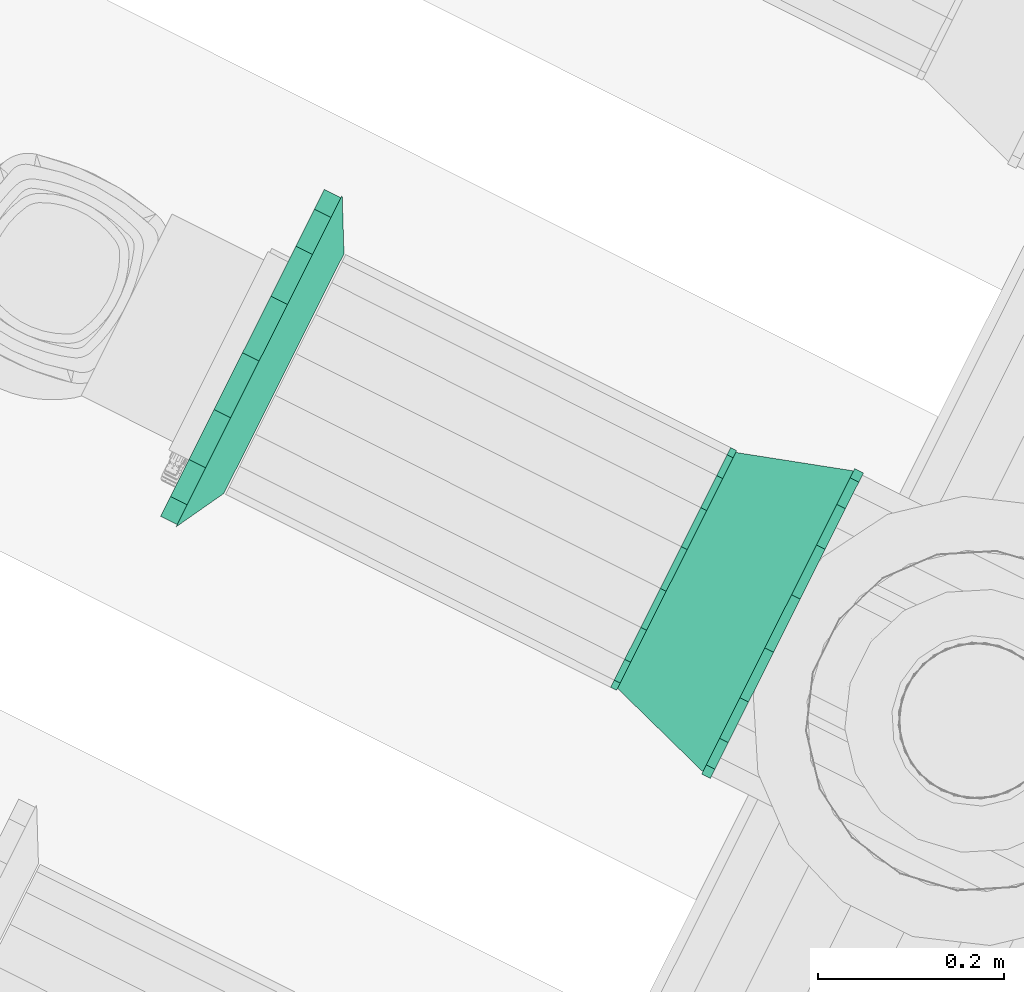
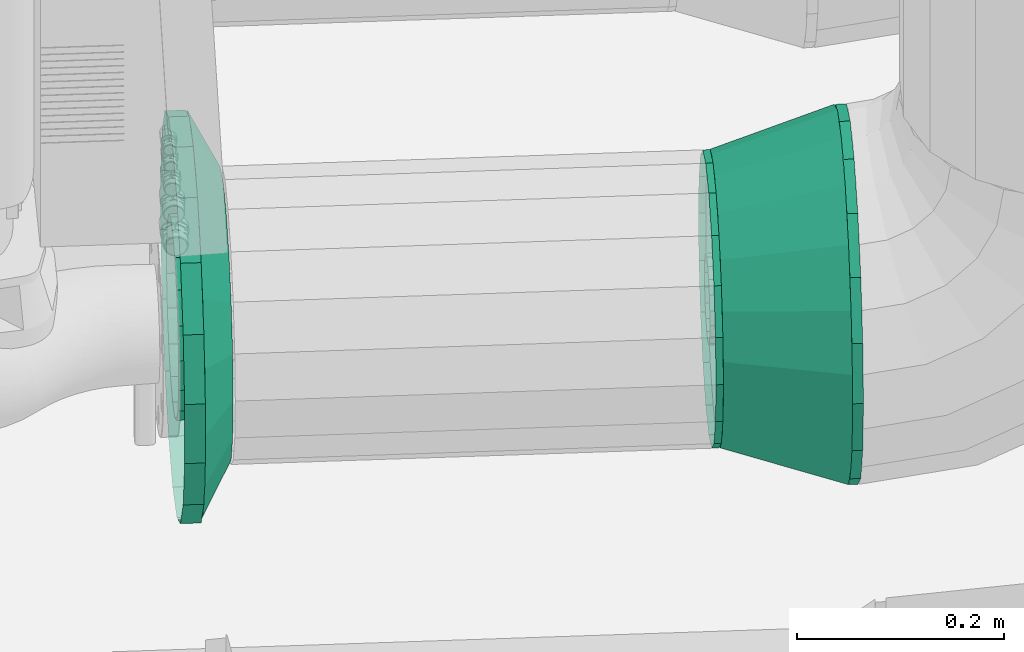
# One storey, part 110 of 152: 2 flow fittings.
"""IFC2X3 building model written with IfcOpenShell, lengths in metres."""

from ifc_helpers import new_model, si_unit, derived_unit, direction, frame, origin, place, context, subcontext, project, spatial, face_set, surface_model, source, transform, mapped, material, type_object, type_shapes, element, save


model = new_model("IFC2X3")

# Units and contexts
model_context = context("Model", 3, precision=5.2338327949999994e-05, world=origin(), true_north=direction((0.0, 1.0)))
body_context = subcontext(model_context, "Body", "Model", "MODEL_VIEW")
ifc_project = project(units=[si_unit("LENGTHUNIT", "METRE"), si_unit("AREAUNIT", "SQUARE_METRE"), si_unit("VOLUMEUNIT", "CUBIC_METRE"), si_unit("MASSUNIT", "GRAM", prefix="KILO"), si_unit("PLANEANGLEUNIT", "RADIAN"), derived_unit("THERMALTRANSMITTANCEUNIT", [(si_unit("MASSUNIT", "GRAM", prefix="KILO"), 1), (si_unit("THERMODYNAMICTEMPERATUREUNIT", "KELVIN"), -1), (si_unit("TIMEUNIT", "SECOND"), -3)])], contexts=[model_context])

# Site, building, storey
site_placement = place(None, frame((0.0, 0.0, 0.0), z_axis=(0.0, 0.0, 1.0), x_axis=(0.8939966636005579, -0.4480736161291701, 0.0)))
site = spatial("IfcSite", under=ifc_project, at=site_placement, Name="Default", CompositionType="ELEMENT")
building_placement = place(site_placement, origin())
building = spatial("IfcBuilding", under=site, at=building_placement, CompositionType="ELEMENT")
storey_placement = place(building_placement, frame((0.0, 0.0, 2.7499999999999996)))
storey = spatial("IfcBuildingStorey", under=building, at=storey_placement, Name="1. Obergeschoss", CompositionType="ELEMENT", Elevation=2.7499999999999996)

# Flow fittings
ifc_material_1 = material(Name="IfcSurfaceStyle #9317")
distribution_element_type_1 = type_object("IfcDistributionElementType", Name="Übergangsstück 221251:Übergangsstück 221251", material=ifc_material_1)
shared_shape_1 = source(origin(), body_context, "Body", "SurfaceModel", [
    surface_model("IfcFaceBasedSurfaceModel", [(11.496814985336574, 6.507598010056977, 3.325154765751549), (11.496814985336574, 6.5126728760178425, 3.3539357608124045), (11.486355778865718, 6.5126728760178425, 3.3539357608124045), (11.486355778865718, 6.507598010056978, 3.3251547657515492), (11.496814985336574, 6.5272853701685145, 3.3792453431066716), (11.486355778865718, 6.5272853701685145, 3.3792453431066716), (11.496814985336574, 6.549673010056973, 3.398030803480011), (11.486355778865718, 6.549673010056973, 3.398030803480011), (11.496814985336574, 6.577135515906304, 3.4080263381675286), (11.486355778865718, 6.577135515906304, 3.4080263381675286), (11.496814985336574, 6.606360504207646, 3.408026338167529), (11.486355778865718, 6.606360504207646, 3.408026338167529), (11.496814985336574, 6.633823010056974, 3.3980308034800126), (11.486355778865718, 6.633823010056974, 3.3980308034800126), (11.496814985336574, 6.656210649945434, 3.379245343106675), (11.486355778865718, 6.656210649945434, 3.379245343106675), (11.496814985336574, 6.670823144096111, 3.3539357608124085), (11.486355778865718, 6.670823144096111, 3.3539357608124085), (11.496814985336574, 6.675898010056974, 3.325154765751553), (11.486355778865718, 6.675898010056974, 3.325154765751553), (11.496814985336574, 6.670823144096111, 3.296373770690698), (11.486355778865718, 6.670823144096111, 3.296373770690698), (11.496814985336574, 6.6562106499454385, 3.2710641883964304), (11.486355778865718, 6.6562106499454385, 3.2710641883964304), (11.496814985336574, 6.633823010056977, 3.2522787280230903), (11.486355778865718, 6.633823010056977, 3.2522787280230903), (11.496814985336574, 6.606360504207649, 3.2422831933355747), (11.486355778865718, 6.606360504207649, 3.2422831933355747), (11.496814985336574, 6.577135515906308, 3.2422831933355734), (11.486355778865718, 6.577135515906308, 3.2422831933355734), (11.496814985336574, 6.549673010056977, 3.2522787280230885), (11.486355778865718, 6.549673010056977, 3.2522787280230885), (11.496814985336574, 6.527285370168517, 3.2710641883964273), (11.486355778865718, 6.527285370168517, 3.2710641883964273), (11.496814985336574, 6.512672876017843, 3.296373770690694), (11.486355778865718, 6.512672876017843, 3.296373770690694), (11.496814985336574, 6.407598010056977, 3.3251547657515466), (11.496814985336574, 6.418703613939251, 3.388137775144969), (11.486355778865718, 6.418703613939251, 3.388137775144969), (11.486355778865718, 6.407598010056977, 3.325154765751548), (11.496814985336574, 6.450680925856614, 3.4435241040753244), (11.486355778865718, 6.450680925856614, 3.4435241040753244), (11.496814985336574, 6.4996730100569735, 3.484633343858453), (11.486355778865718, 6.4996730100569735, 3.484633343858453), (11.496814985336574, 6.559770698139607, 3.5065071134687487), (11.486355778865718, 6.559770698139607, 3.5065071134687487), (11.496814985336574, 6.623725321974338, 3.5065071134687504), (11.486355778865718, 6.623725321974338, 3.5065071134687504), (11.496814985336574, 6.683823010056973, 3.4846333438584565), (11.486355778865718, 6.683823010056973, 3.4846333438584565), (11.496814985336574, 6.732815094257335, 3.4435241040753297), (11.486355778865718, 6.732815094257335, 3.4435241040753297), (11.496814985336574, 6.7647924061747, 3.388137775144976), (11.486355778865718, 6.7647924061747, 3.388137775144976), (11.496814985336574, 6.7758980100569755, 3.3251547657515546), (11.486355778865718, 6.7758980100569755, 3.3251547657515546), (11.496814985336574, 6.764792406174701, 3.262171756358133), (11.486355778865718, 6.764792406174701, 3.262171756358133), (11.496814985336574, 6.73281509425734, 3.2067854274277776), (11.486355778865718, 6.73281509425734, 3.2067854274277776), (11.496814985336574, 6.683823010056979, 3.165676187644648), (11.486355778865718, 6.683823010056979, 3.165676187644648), (11.496814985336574, 6.623725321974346, 3.1438024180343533), (11.486355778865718, 6.623725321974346, 3.1438024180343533), (11.496814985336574, 6.559770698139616, 3.143802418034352), (11.486355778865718, 6.559770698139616, 3.143802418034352), (11.496814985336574, 6.49967301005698, 3.165676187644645), (11.486355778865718, 6.49967301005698, 3.165676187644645), (11.496814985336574, 6.450680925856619, 3.2067854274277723), (11.486355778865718, 6.450680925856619, 3.2067854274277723), (11.496814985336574, 6.418703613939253, 3.262171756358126), (11.486355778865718, 6.418703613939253, 3.262171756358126), (11.486355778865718, 6.591748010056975, 3.4093047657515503), (11.486355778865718, 6.62052900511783, 3.404229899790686), (11.363964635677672, 6.606950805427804, 3.366924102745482), (11.363964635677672, 6.591748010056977, 3.3696047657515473), (11.486355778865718, 6.645838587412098, 3.389617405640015), (11.363964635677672, 6.620319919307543, 3.3592054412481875), (11.486355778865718, 6.664624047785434, 3.367229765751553), (11.363964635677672, 6.630242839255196, 3.3473797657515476), (11.486355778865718, 6.674619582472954, 3.3397672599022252), (11.363964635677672, 6.63552271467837, 3.332873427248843), (11.486355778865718, 6.674619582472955, 3.3105422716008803), (11.363964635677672, 6.635522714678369, 3.317436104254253), (11.486355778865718, 6.664624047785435, 3.283079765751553), (11.363964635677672, 6.630242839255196, 3.3029297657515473), (11.486355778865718, 6.6458385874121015, 3.260692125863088), (11.363964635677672, 6.620319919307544, 3.291104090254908), (11.486355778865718, 6.620529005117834, 3.246079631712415), (11.363964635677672, 6.606950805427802, 3.283385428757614), (11.486355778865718, 6.591748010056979, 3.2410047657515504), (11.363964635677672, 6.591748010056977, 3.280704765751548), (11.486355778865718, 6.562967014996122, 3.2460796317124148), (11.363964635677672, 6.57654521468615, 3.2833854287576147), (11.486355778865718, 6.537657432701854, 3.2606921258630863), (11.363964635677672, 6.56317610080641, 3.2911040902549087), (11.486355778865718, 6.518871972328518, 3.2830797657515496), (11.363964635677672, 6.553253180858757, 3.3029297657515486), (11.486355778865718, 6.508876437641, 3.310542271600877), (11.363964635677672, 6.547973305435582, 3.317436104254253), (11.486355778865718, 6.508876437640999, 3.3397672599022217), (11.363964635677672, 6.547973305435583, 3.3328734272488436), (11.486355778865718, 6.518871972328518, 3.3672297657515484), (11.363964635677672, 6.553253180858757, 3.347379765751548), (11.486355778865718, 6.537657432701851, 3.3896174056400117), (11.363964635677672, 6.563176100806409, 3.359205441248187), (11.486355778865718, 6.56296701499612, 3.404229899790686), (11.363964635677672, 6.57654521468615, 3.366924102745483), (11.363964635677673, 6.547298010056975, 3.325154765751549), (11.363964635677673, 6.549978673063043, 3.3403575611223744), (11.356814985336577, 6.549978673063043, 3.3403575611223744), (11.356814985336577, 6.547298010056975, 3.325154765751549), (11.363964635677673, 6.557697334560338, 3.353726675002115), (11.356814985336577, 6.557697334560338, 3.353726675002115), (11.363964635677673, 6.569523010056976, 3.3636495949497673), (11.356814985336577, 6.569523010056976, 3.3636495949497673), (11.363964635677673, 6.584029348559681, 3.3689294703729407), (11.356814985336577, 6.584029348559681, 3.3689294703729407), (11.363964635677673, 6.599466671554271, 3.3689294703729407), (11.356814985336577, 6.599466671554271, 3.3689294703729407), (11.363964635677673, 6.613973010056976, 3.363649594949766), (11.356814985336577, 6.613973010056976, 3.363649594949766), (11.363964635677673, 6.6257986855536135, 3.3537266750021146), (11.356814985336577, 6.6257986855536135, 3.3537266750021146), (11.363964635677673, 6.63351734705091, 3.340357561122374), (11.356814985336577, 6.63351734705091, 3.340357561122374), (11.363964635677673, 6.636198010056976, 3.325154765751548), (11.356814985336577, 6.636198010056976, 3.325154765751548), (11.363964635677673, 6.63351734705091, 3.309951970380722), (11.356814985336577, 6.63351734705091, 3.309951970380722), (11.363964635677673, 6.6257986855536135, 3.2965828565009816), (11.356814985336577, 6.6257986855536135, 3.2965828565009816), (11.363964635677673, 6.613973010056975, 3.2866599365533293), (11.356814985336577, 6.613973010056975, 3.2866599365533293), (11.363964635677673, 6.599466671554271, 3.2813800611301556), (11.356814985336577, 6.599466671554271, 3.2813800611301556), (11.363964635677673, 6.584029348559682, 3.2813800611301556), (11.356814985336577, 6.584029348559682, 3.2813800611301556), (11.363964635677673, 6.569523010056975, 3.2866599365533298), (11.356814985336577, 6.569523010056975, 3.2866599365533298), (11.363964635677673, 6.557697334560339, 3.296582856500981), (11.356814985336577, 6.557697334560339, 3.296582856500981), (11.363964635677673, 6.549978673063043, 3.309951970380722), (11.356814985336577, 6.549978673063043, 3.309951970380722), (11.486355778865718, 6.591748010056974, 3.5093047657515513), (11.486355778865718, 6.654731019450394, 3.498199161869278), (11.363964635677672, 6.641152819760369, 3.460893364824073), (11.363964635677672, 6.591748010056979, 3.469604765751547), (11.486355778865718, 6.710117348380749, 3.4662218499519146), (11.363964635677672, 6.684598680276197, 3.435809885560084), (11.486355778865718, 6.751226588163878, 3.417229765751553), (11.363964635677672, 6.716845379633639, 3.397379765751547), (11.486355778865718, 6.773100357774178, 3.35713207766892), (11.363964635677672, 6.7340034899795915, 3.3502382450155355), (11.486355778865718, 6.773100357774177, 3.29317745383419), (11.363964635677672, 6.73400348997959, 3.300071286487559), (11.486355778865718, 6.751226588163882, 3.2330797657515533), (11.363964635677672, 6.7168453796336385, 3.2529297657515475), (11.486355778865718, 6.710117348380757, 3.184087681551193), (11.363964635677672, 6.6845986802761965, 3.2144996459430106), (11.486355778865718, 6.654731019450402, 3.152110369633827), (11.363964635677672, 6.641152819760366, 3.1894161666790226), (11.486355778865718, 6.59174801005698, 3.1410047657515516), (11.363964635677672, 6.591748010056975, 3.1807047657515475), (11.486355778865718, 6.528765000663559, 3.152110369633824), (11.363964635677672, 6.542343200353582, 3.189416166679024), (11.486355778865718, 6.4733786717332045, 3.184087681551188), (11.363964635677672, 6.498897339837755, 3.2144996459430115), (11.486355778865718, 6.432269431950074, 3.233079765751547), (11.363964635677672, 6.466650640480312, 3.2529297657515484), (11.486355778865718, 6.410395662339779, 3.2931774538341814), (11.363964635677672, 6.449492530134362, 3.3000712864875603), (11.486355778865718, 6.410395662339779, 3.357132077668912), (11.363964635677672, 6.449492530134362, 3.3502382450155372), (11.486355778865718, 6.432269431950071, 3.417229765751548), (11.363964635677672, 6.466650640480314, 3.39737976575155), (11.486355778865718, 6.4733786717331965, 3.4662218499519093), (11.363964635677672, 6.498897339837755, 3.4358098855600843), (11.486355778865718, 6.528765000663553, 3.4981991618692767), (11.363964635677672, 6.542343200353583, 3.460893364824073), (11.363964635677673, 6.447298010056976, 3.325154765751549), (11.363964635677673, 6.456009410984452, 3.374559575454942), (11.356814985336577, 6.456009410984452, 3.374559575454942), (11.356814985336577, 6.447298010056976, 3.325154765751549), (11.363964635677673, 6.48109289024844, 3.4180054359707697), (11.356814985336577, 6.48109289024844, 3.4180054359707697), (11.363964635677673, 6.519523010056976, 3.4502521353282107), (11.356814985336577, 6.519523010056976, 3.4502521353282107), (11.363964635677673, 6.566664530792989, 3.467410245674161), (11.356814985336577, 6.566664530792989, 3.467410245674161), (11.363964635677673, 6.616831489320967, 3.4674102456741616), (11.356814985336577, 6.616831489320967, 3.4674102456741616), (11.363964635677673, 6.663973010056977, 3.4502521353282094), (11.356814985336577, 6.663973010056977, 3.4502521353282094), (11.363964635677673, 6.702403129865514, 3.418005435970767), (11.356814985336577, 6.702403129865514, 3.418005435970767), (11.363964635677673, 6.727486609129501, 3.37455957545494), (11.356814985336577, 6.727486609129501, 3.37455957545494), (11.363964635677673, 6.736198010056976, 3.3251547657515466), (11.356814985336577, 6.736198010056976, 3.3251547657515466), (11.363964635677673, 6.7274866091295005, 3.2757499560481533), (11.356814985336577, 6.7274866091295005, 3.2757499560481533), (11.363964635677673, 6.702403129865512, 3.232304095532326), (11.356814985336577, 6.702403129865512, 3.232304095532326), (11.363964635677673, 6.663973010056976, 3.200057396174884), (11.356814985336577, 6.663973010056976, 3.200057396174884), (11.363964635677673, 6.616831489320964, 3.182899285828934), (11.356814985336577, 6.616831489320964, 3.182899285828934), (11.363964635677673, 6.5666645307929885, 3.1828992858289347), (11.356814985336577, 6.5666645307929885, 3.1828992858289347), (11.363964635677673, 6.519523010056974, 3.2000573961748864), (11.356814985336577, 6.519523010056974, 3.2000573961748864), (11.363964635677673, 6.48109289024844, 3.232304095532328), (11.356814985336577, 6.48109289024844, 3.232304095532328), (11.363964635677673, 6.456009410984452, 3.275749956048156), (11.356814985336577, 6.456009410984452, 3.275749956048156)], [face_set([[[0, 1, 2, 3]], [[1, 4, 5, 2]], [[4, 6, 7, 5]], [[6, 8, 9, 7]], [[8, 10, 11, 9]], [[10, 12, 13, 11]], [[12, 14, 15, 13]], [[14, 16, 17, 15]], [[16, 18, 19, 17]], [[18, 20, 21, 19]], [[20, 22, 23, 21]], [[22, 24, 25, 23]], [[24, 26, 27, 25]], [[26, 28, 29, 27]], [[28, 30, 31, 29]], [[30, 32, 33, 31]], [[32, 34, 35, 33]], [[34, 0, 3, 35]], [[36, 37, 38, 39]], [[37, 40, 41, 38]], [[40, 42, 43, 41]], [[42, 44, 45, 43]], [[44, 46, 47, 45]], [[46, 48, 49, 47]], [[48, 50, 51, 49]], [[50, 52, 53, 51]], [[52, 54, 55, 53]], [[54, 56, 57, 55]], [[56, 58, 59, 57]], [[58, 60, 61, 59]], [[60, 62, 63, 61]], [[62, 64, 65, 63]], [[64, 66, 67, 65]], [[66, 68, 69, 67]], [[68, 70, 71, 69]], [[70, 36, 39, 71]], [[72, 73, 74, 75]], [[73, 76, 77, 74]], [[76, 78, 79, 77]], [[78, 80, 81, 79]], [[80, 82, 83, 81]], [[82, 84, 85, 83]], [[84, 86, 87, 85]], [[86, 88, 89, 87]], [[88, 90, 91, 89]], [[90, 92, 93, 91]], [[92, 94, 95, 93]], [[94, 96, 97, 95]], [[96, 98, 99, 97]], [[98, 100, 101, 99]], [[100, 102, 103, 101]], [[102, 104, 105, 103]], [[104, 106, 107, 105]], [[106, 72, 75, 107]], [[108, 109, 110, 111]], [[109, 112, 113, 110]], [[112, 114, 115, 113]], [[114, 116, 117, 115]], [[116, 118, 119, 117]], [[118, 120, 121, 119]], [[120, 122, 123, 121]], [[122, 124, 125, 123]], [[124, 126, 127, 125]], [[126, 128, 129, 127]], [[128, 130, 131, 129]], [[130, 132, 133, 131]], [[132, 134, 135, 133]], [[134, 136, 137, 135]], [[136, 138, 139, 137]], [[138, 140, 141, 139]], [[140, 142, 143, 141]], [[142, 108, 111, 143]], [[144, 145, 146, 147]], [[145, 148, 149, 146]], [[148, 150, 151, 149]], [[150, 152, 153, 151]], [[152, 154, 155, 153]], [[154, 156, 157, 155]], [[156, 158, 159, 157]], [[158, 160, 161, 159]], [[160, 162, 163, 161]], [[162, 164, 165, 163]], [[164, 166, 167, 165]], [[166, 168, 169, 167]], [[168, 170, 171, 169]], [[170, 172, 173, 171]], [[172, 174, 175, 173]], [[174, 176, 177, 175]], [[176, 178, 179, 177]], [[178, 144, 147, 179]], [[180, 181, 182, 183]], [[181, 184, 185, 182]], [[184, 186, 187, 185]], [[186, 188, 189, 187]], [[188, 190, 191, 189]], [[190, 192, 193, 191]], [[192, 194, 195, 193]], [[194, 196, 197, 195]], [[196, 198, 199, 197]], [[198, 200, 201, 199]], [[200, 202, 203, 201]], [[202, 204, 205, 203]], [[204, 206, 207, 205]], [[206, 208, 209, 207]], [[208, 210, 211, 209]], [[210, 212, 213, 211]], [[212, 214, 215, 213]], [[214, 180, 183, 215]]])]),
])
type_shapes(distribution_element_type_1, [shared_shape_1])
flow_fitting_1_placement = place(storey_placement, frame((0.0, 0.0, -2.7499999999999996)))
element("IfcFlowFitting", 1, at=flow_fitting_1_placement, inside=storey, type_object=distribution_element_type_1, material=ifc_material_1, Name="Übergangsstück", ObjectType="Übergangsstück", context=body_context, shape_type="MappedRepresentation", body=[
    mapped(shared_shape_1, transform((0.0, 0.0, 0.0), scale=1.0)),
])
ifc_material_2 = material(Name="IfcSurfaceStyle #221345")
distribution_element_type_2 = type_object("IfcDistributionElementType", Name="Flansch 221320:Flansch 221320", material=ifc_material_2)
shared_shape_2 = source(origin(), body_context, "Body", "SurfaceModel", [
    surface_model("IfcFaceBasedSurfaceModel", [(10.840519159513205, 6.5917480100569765, 3.2251547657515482), (10.840519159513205, 6.625950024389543, 3.2311855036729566), (10.860519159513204, 6.625950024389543, 3.2311855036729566), (10.860519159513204, 6.5917480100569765, 3.2251547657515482), (10.840519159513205, 6.656026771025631, 3.2485503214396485), (10.860519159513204, 6.656026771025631, 3.2485503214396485), (10.840519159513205, 6.678350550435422, 3.2751547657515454), (10.860519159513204, 6.678350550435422, 3.2751547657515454), (10.840519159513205, 6.690228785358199, 3.3077899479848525), (10.860519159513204, 6.690228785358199, 3.3077899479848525), (10.840519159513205, 6.6902287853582, 3.3425195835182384), (10.860519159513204, 6.6902287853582, 3.3425195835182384), (10.840519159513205, 6.678350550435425, 3.3751547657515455), (10.860519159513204, 6.678350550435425, 3.3751547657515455), (10.840519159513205, 6.656026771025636, 3.401759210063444), (10.860519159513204, 6.656026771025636, 3.401759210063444), (10.840519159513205, 6.625950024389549, 3.4191240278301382), (10.860519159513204, 6.625950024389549, 3.4191240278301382), (10.840519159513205, 6.591748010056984, 3.4251547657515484), (10.860519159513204, 6.591748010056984, 3.4251547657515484), (10.840519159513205, 6.557545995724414, 3.419124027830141), (10.860519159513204, 6.557545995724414, 3.419124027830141), (10.840519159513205, 6.527469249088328, 3.4017592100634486), (10.860519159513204, 6.527469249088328, 3.4017592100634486), (10.840519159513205, 6.505145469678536, 3.3751547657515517), (10.860519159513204, 6.505145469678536, 3.3751547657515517), (10.840519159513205, 6.493267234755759, 3.342519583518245), (10.860519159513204, 6.493267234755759, 3.342519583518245), (10.840519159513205, 6.493267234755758, 3.307789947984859), (10.860519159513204, 6.493267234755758, 3.307789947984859), (10.840519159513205, 6.505145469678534, 3.2751547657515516), (10.860519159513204, 6.505145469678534, 3.2751547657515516), (10.840519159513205, 6.5274692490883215, 3.248550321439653), (10.860519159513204, 6.5274692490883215, 3.248550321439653), (10.840519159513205, 6.557545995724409, 3.231185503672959), (10.860519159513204, 6.557545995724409, 3.231185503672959), (10.860519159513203, 6.591748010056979, 3.325154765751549), (10.860519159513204, 6.539248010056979, 3.3251547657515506), (10.860519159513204, 6.542414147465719, 3.3071987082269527), (10.890519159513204, 6.549978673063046, 3.3099519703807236), (10.890519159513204, 6.54729801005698, 3.3251547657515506), (10.860519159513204, 6.551530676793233, 3.291408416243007), (10.890519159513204, 6.557697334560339, 3.296582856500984), (10.860519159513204, 6.565498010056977, 3.279688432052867), (10.890519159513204, 6.569523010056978, 3.286659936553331), (10.860519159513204, 6.5826314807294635, 3.273452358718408), (10.890519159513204, 6.584029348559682, 3.2813800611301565), (10.860519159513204, 6.6008645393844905, 3.2734523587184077), (10.890519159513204, 6.599466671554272, 3.2813800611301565), (10.860519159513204, 6.6179980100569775, 3.2796884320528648), (10.890519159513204, 6.613973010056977, 3.2866599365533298), (10.860519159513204, 6.631965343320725, 3.291408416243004), (10.890519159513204, 6.625798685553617, 3.296582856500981), (10.860519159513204, 6.641081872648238, 3.3071987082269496), (10.890519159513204, 6.633517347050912, 3.309951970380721), (10.860519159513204, 6.644248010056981, 3.3251547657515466), (10.890519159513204, 6.636198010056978, 3.3251547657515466), (10.860519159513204, 6.641081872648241, 3.343110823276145), (10.890519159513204, 6.633517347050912, 3.3403575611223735), (10.860519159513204, 6.631965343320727, 3.3589011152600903), (10.890519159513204, 6.625798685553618, 3.3537266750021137), (10.860519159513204, 6.617998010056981, 3.37062109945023), (10.890519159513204, 6.613973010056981, 3.363649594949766), (10.860519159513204, 6.600864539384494, 3.376857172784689), (10.890519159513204, 6.599466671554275, 3.368929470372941), (10.860519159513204, 6.582631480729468, 3.37685717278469), (10.890519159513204, 6.584029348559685, 3.368929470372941), (10.860519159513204, 6.565498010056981, 3.370621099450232), (10.890519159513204, 6.569523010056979, 3.3636495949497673), (10.860519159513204, 6.551530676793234, 3.358901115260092), (10.890519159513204, 6.5576973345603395, 3.353726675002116), (10.860519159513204, 6.54241414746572, 3.3431108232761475), (10.890519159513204, 6.549978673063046, 3.340357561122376), (10.840519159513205, 6.591748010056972, 3.125154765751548), (10.840519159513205, 6.6601520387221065, 3.137216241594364), (10.860519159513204, 6.6601520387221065, 3.137216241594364), (10.860519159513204, 6.591748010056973, 3.1251547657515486), (10.840519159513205, 6.720305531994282, 3.1719458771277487), (10.860519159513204, 6.720305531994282, 3.1719458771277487), (10.840519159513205, 6.764953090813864, 3.225154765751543), (10.860519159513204, 6.764953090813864, 3.225154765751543), (10.840519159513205, 6.788709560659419, 3.290425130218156), (10.860519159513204, 6.788709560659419, 3.290425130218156), (10.840519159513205, 6.788709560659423, 3.359884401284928), (10.860519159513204, 6.788709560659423, 3.359884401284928), (10.840519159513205, 6.7649530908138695, 3.4251547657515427), (10.860519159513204, 6.7649530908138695, 3.4251547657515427), (10.840519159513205, 6.720305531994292, 3.47836365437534), (10.860519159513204, 6.720305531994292, 3.47836365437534), (10.840519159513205, 6.660152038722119, 3.513093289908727), (10.860519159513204, 6.660152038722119, 3.513093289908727), (10.840519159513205, 6.591748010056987, 3.525154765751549), (10.860519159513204, 6.591748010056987, 3.525154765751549), (10.840519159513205, 6.523343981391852, 3.5130932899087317), (10.860519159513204, 6.523343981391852, 3.5130932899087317), (10.840519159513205, 6.463190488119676, 3.4783636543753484), (10.860519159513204, 6.463190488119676, 3.4783636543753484), (10.840519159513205, 6.418542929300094, 3.425154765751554), (10.860519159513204, 6.418542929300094, 3.425154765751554), (10.840519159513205, 6.394786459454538, 3.359884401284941), (10.860519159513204, 6.394786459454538, 3.359884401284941), (10.840519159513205, 6.394786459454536, 3.290425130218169), (10.860519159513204, 6.394786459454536, 3.290425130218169), (10.840519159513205, 6.418542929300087, 3.225154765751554), (10.860519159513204, 6.418542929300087, 3.225154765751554), (10.840519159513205, 6.463190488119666, 3.1719458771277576), (10.860519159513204, 6.463190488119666, 3.1719458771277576), (10.840519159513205, 6.52334398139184, 3.137216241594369), (10.860519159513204, 6.52334398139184, 3.137216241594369), (10.860519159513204, 6.391748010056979, 3.3251547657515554), (10.860519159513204, 6.403809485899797, 3.2567507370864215), (10.890519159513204, 6.4560094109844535, 3.275749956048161), (10.890519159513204, 6.447298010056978, 3.3251547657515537), (10.860519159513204, 6.4385391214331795, 3.1965972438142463), (10.890519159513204, 6.48109289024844, 3.2323040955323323), (10.860519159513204, 6.491748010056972, 3.151949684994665), (10.890519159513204, 6.519523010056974, 3.20005739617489), (10.860519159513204, 6.557018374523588, 3.1281932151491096), (10.890519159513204, 6.566664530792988, 3.1828992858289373), (10.860519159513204, 6.6264776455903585, 3.128193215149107), (10.890519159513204, 6.616831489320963, 3.182899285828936), (10.860519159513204, 6.691748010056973, 3.151949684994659), (10.890519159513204, 6.663973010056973, 3.200057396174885), (10.860519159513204, 6.74495689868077, 3.1965972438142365), (10.890519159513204, 6.702403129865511, 3.2323040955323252), (10.860519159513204, 6.779686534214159, 3.256750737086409), (10.890519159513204, 6.7274866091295, 3.275749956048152), (10.860519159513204, 6.791748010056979, 3.325154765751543), (10.890519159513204, 6.73619801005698, 3.3251547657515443), (10.860519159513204, 6.779686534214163, 3.3935587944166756), (10.890519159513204, 6.727486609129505, 3.374559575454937), (10.860519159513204, 6.744956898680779, 3.4537122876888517), (10.890519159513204, 6.702403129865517, 3.4180054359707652), (10.860519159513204, 6.691748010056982, 3.4983598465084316), (10.890519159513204, 6.663973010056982, 3.4502521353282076), (10.860519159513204, 6.626477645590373, 3.5221163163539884), (10.890519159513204, 6.616831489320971, 3.4674102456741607), (10.860519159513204, 6.5570183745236, 3.5221163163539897), (10.890519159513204, 6.566664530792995, 3.4674102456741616), (10.860519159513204, 6.491748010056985, 3.4983598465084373), (10.890519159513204, 6.519523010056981, 3.4502521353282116), (10.860519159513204, 6.438539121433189, 3.4537122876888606), (10.890519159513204, 6.481092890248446, 3.418005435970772), (10.860519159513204, 6.4038094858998, 3.393558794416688), (10.890519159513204, 6.456009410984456, 3.3745595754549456)], [face_set([[[0, 1, 2, 3]], [[1, 4, 5, 2]], [[4, 6, 7, 5]], [[6, 8, 9, 7]], [[8, 10, 11, 9]], [[10, 12, 13, 11]], [[12, 14, 15, 13]], [[14, 16, 17, 15]], [[16, 18, 19, 17]], [[18, 20, 21, 19]], [[20, 22, 23, 21]], [[22, 24, 25, 23]], [[24, 26, 27, 25]], [[26, 28, 29, 27]], [[28, 30, 31, 29]], [[30, 32, 33, 31]], [[32, 34, 35, 33]], [[34, 0, 3, 35]], [[36, 35, 3]], [[36, 33, 35]], [[36, 31, 33]], [[36, 29, 31]], [[36, 27, 29]], [[36, 25, 27]], [[36, 23, 25]], [[36, 21, 23]], [[36, 19, 21]], [[36, 17, 19]], [[36, 15, 17]], [[36, 13, 15]], [[36, 11, 13]], [[36, 9, 11]], [[36, 7, 9]], [[36, 5, 7]], [[36, 2, 5]], [[36, 3, 2]], [[37, 38, 39, 40]], [[38, 41, 42, 39]], [[41, 43, 44, 42]], [[43, 45, 46, 44]], [[45, 47, 48, 46]], [[47, 49, 50, 48]], [[49, 51, 52, 50]], [[51, 53, 54, 52]], [[53, 55, 56, 54]], [[55, 57, 58, 56]], [[57, 59, 60, 58]], [[59, 61, 62, 60]], [[61, 63, 64, 62]], [[63, 65, 66, 64]], [[65, 67, 68, 66]], [[67, 69, 70, 68]], [[69, 71, 72, 70]], [[71, 37, 40, 72]], [[73, 74, 75, 76]], [[74, 77, 78, 75]], [[77, 79, 80, 78]], [[79, 81, 82, 80]], [[81, 83, 84, 82]], [[83, 85, 86, 84]], [[85, 87, 88, 86]], [[87, 89, 90, 88]], [[89, 91, 92, 90]], [[91, 93, 94, 92]], [[93, 95, 96, 94]], [[95, 97, 98, 96]], [[97, 99, 100, 98]], [[99, 101, 102, 100]], [[101, 103, 104, 102]], [[103, 105, 106, 104]], [[105, 107, 108, 106]], [[107, 73, 76, 108]], [[109, 110, 111, 112]], [[110, 113, 114, 111]], [[113, 115, 116, 114]], [[115, 117, 118, 116]], [[117, 119, 120, 118]], [[119, 121, 122, 120]], [[121, 123, 124, 122]], [[123, 125, 126, 124]], [[125, 127, 128, 126]], [[127, 129, 130, 128]], [[129, 131, 132, 130]], [[131, 133, 134, 132]], [[133, 135, 136, 134]], [[135, 137, 138, 136]], [[137, 139, 140, 138]], [[139, 141, 142, 140]], [[141, 143, 144, 142]], [[143, 109, 112, 144]]])]),
])
type_shapes(distribution_element_type_2, [shared_shape_2])
flow_fitting_2_placement = place(storey_placement, frame((0.0, 0.0, -2.7499999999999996)))
element("IfcFlowFitting", 2, at=flow_fitting_2_placement, inside=storey, type_object=distribution_element_type_2, material=ifc_material_2, Name="Flansch", ObjectType="Flansch", context=body_context, shape_type="MappedRepresentation", body=[
    mapped(shared_shape_2, transform((0.0, 0.0, 0.0), scale=1.0)),
])

save(model, "model.ifc")
